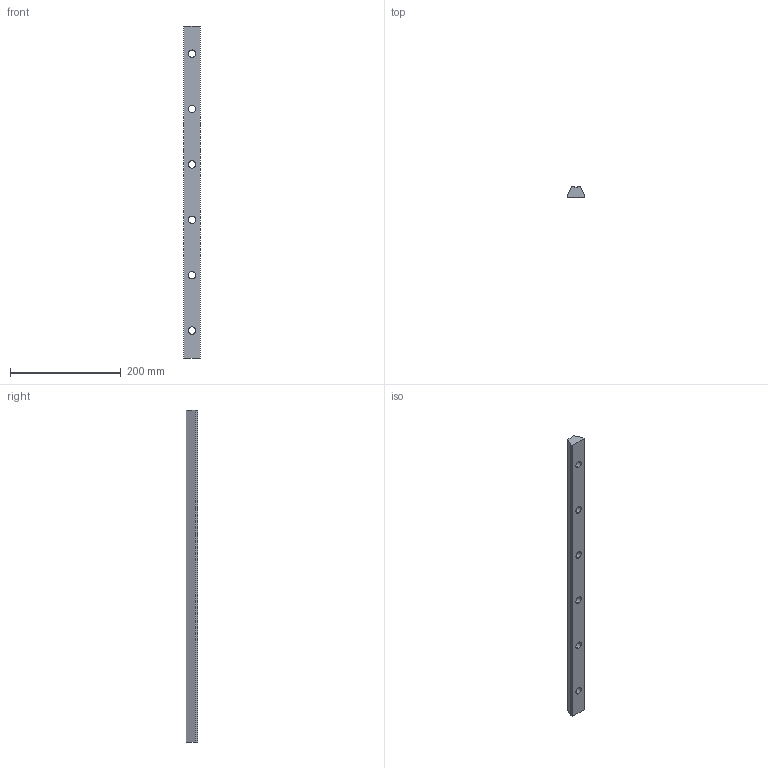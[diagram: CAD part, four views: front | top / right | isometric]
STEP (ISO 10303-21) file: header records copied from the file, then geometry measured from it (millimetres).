
FILE_DESCRIPTION (( 'STEP AP203' ), '1' );
FILE_NAME ('KWU16-40.step', '2020-03-23T07:53:00', ( '' ), ( '' ), 'SwSTEP 2.0', 'SolidWorks 2019', '' );
FILE_SCHEMA (( 'CONFIG_CONTROL_DESIGN' ));
Length unit declared in the file: millimetre
Products named in the file (2): KWU16-40
Bounding box: 30 x 20.39 x 599.5 mm (x, y, z)
Volume: 267580 mm3; surface area: 57980.5 mm2
Topology: 1 solids, 1 shells, 21 faces, 63 edges, 38 vertices
Faces by surface type: cylinder 12, plane 9
Entity records: 872 total; most frequent: CARTESIAN_POINT 160, ORIENTED_EDGE 126, DIRECTION 109, EDGE_CURVE 63, VECTOR 39, LINE 39, VERTEX_POINT 38, AXIS2_PLACEMENT_3D 35
